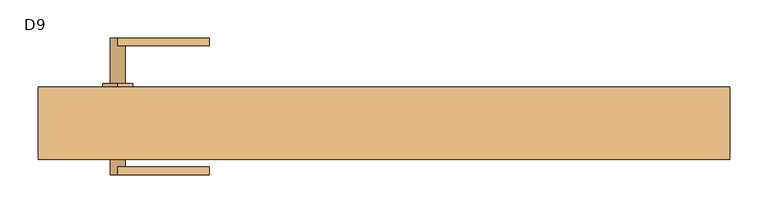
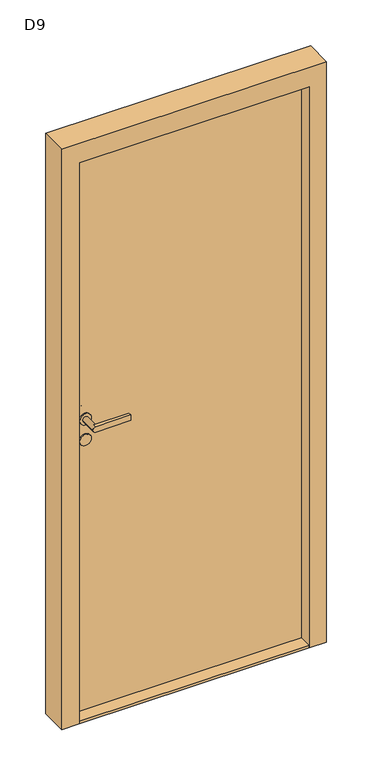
"""IFC4 building model written with IfcOpenShell, lengths in millimetres: door geometry, Enkeldörr : D9."""

from ifc_helpers import new_model, si_unit, point, frame, frame_2d, origin, origin_with_axes, place, context, project, spatial, polyline, circle_curve, trimmed, segment, composite_curve, outline, extrude, source, transform, mapped, element, save
from ifc_brep_helpers import plane_surface, cylinder_surface, advanced_brep


def d9_ccbe3deb(model_context):
    return source(origin(), model_context, "Body", "SolidModel", [
        extrude(outline(polyline([(395.0, -2.5), (-395.0, -2.5), (-395.0, 47.5), (395.0, 47.5), (395.0, -2.5)])), frame((0.0, 0.0, 10.0), z_axis=(0.0, 0.0, 1.0), x_axis=(1.0, 0.0, 0.0)), (0.0, 0.0, 1.0), 2030.0),
        advanced_brep(
        [(-350.0, -57.5, 1057.5), (-340.0, -57.5, 1067.5), (-350.0, -57.5, 1077.5), (-230.0, -57.5, 1077.5), (-230.0, -57.5, 1057.5), (-350.0, -67.5, 1077.5), (-360.0, -67.5, 1067.5), (-350.0, -67.5, 1057.5), (-230.0, -67.5, 1057.5), (-230.0, -67.5, 1077.5), (-340.0, -7.5, 1067.5), (-360.0, -7.5, 1067.5)],
        [
            (0, 1, circle_curve(frame((-350.0, -57.5, 1067.5), z_axis=(0.0, -1.0, 0.0), x_axis=(0.0, 0.0, 1.0)), 10.0)),
            (1, 2, circle_curve(frame((-350.0, -57.5, 1067.5), z_axis=(0.0, -1.0, 0.0), x_axis=(0.0, 0.0, 1.0)), 10.0)),
            (2, 3),
            (3, 4),
            (4, 0),
            (5, 6, circle_curve(frame((-350.0, -67.5, 1067.5), z_axis=(0.0, -1.0, 0.0), x_axis=(0.0, 0.0, 1.0)), 10.0)),
            (6, 7, circle_curve(frame((-350.0, -67.5, 1067.5), z_axis=(0.0, -1.0, 0.0), x_axis=(0.0, 0.0, 1.0)), 10.0)),
            (7, 8),
            (8, 9),
            (9, 5),
            (4, 8),
            (7, 0),
            (3, 9),
            (2, 5),
            (10, 11, circle_curve(frame((-350.0, -7.5, 1067.5), z_axis=(0.0, 1.0, 0.0), x_axis=(0.0, 0.0, 1.0)), 10.0)),
            (11, 10, circle_curve(frame((-350.0, -7.5, 1067.5), z_axis=(0.0, 1.0, 0.0), x_axis=(0.0, 0.0, 1.0)), 10.0)),
            (11, 6),
            (1, 10),
        ],
        [
            plane_surface(frame((-350.0, -57.5, 1057.5), z_axis=(0.0, 1.0, 0.0), x_axis=(1.0, 0.0, 0.0))),
            plane_surface(frame((-350.0, -67.5, 1057.5), z_axis=(0.0, -1.0, 0.0), x_axis=(-1.0, 0.0, 0.0))),
            plane_surface(frame((-350.0, -57.5, 1057.5), z_axis=(0.0, 0.0, -1.0), x_axis=(0.0, -1.0, 0.0))),
            plane_surface(frame((-230.0, -57.5, 1057.5), z_axis=(1.0, 0.0, 0.0), x_axis=(0.0, -1.0, 0.0))),
            plane_surface(frame((-230.0, -57.5, 1077.5), z_axis=(0.0, 0.0, 1.0), x_axis=(0.0, -1.0, 0.0))),
            plane_surface(frame((-350.0, -7.5, 1077.5), z_axis=(0.0, 1.0, 0.0), x_axis=(-1.0, 0.0, 0.0))),
            cylinder_surface(frame((-350.0, -67.5, 1067.5), z_axis=(0.0, 1.0, 0.0), x_axis=(0.0, 0.0, 1.0)), 10.0),
        ],
        [
            (0, [[1, 2, 3, 4, 5]]),
            (1, [[6, 7, 8, 9, 10]]),
            (2, [[11, -8, 12, -5]]),
            (3, [[13, -9, -11, -4]]),
            (4, [[14, -10, -13, -3]]),
            (5, [[15, 16]]),
            (6, [[17, -6, -14, -2, 18, -16]]),
            (6, [[-18, -1, -12, -7, -17, -15]]),
        ],
    ),
        advanced_brep(
        [(-350.0, 112.5, 1057.5), (-360.0, 112.5, 1067.5), (-350.0, 112.5, 1077.5), (-230.0, 112.5, 1077.5), (-230.0, 112.5, 1057.5), (-350.0, 102.5, 1077.5), (-340.0, 102.5, 1067.5), (-350.0, 102.5, 1057.5), (-230.0, 102.5, 1057.5), (-230.0, 102.5, 1077.5), (-360.0, 52.5, 1067.5), (-340.0, 52.5, 1067.5)],
        [
            (0, 1, circle_curve(frame((-350.0, 112.5, 1067.5), z_axis=(0.0, 1.0, 0.0), x_axis=(1.0, 0.0, 0.0)), 10.0)),
            (1, 2, circle_curve(frame((-350.0, 112.5, 1067.5), z_axis=(0.0, 1.0, 0.0), x_axis=(1.0, 0.0, 0.0)), 10.0)),
            (2, 3),
            (3, 4),
            (4, 0),
            (5, 6, circle_curve(frame((-350.0, 102.5, 1067.5), z_axis=(0.0, 1.0, 0.0), x_axis=(1.0, 0.0, 0.0)), 10.0)),
            (6, 7, circle_curve(frame((-350.0, 102.5, 1067.5), z_axis=(0.0, 1.0, 0.0), x_axis=(1.0, 0.0, 0.0)), 10.0)),
            (7, 8),
            (8, 9),
            (9, 5),
            (4, 8),
            (7, 0),
            (3, 9),
            (2, 5),
            (10, 11, circle_curve(frame((-350.0, 52.5, 1067.5), z_axis=(0.0, -1.0, 0.0), x_axis=(1.0, 0.0, 0.0)), 10.0)),
            (11, 10, circle_curve(frame((-350.0, 52.5, 1067.5), z_axis=(0.0, -1.0, 0.0), x_axis=(1.0, 0.0, 0.0)), 10.0)),
            (10, 1),
            (6, 11),
        ],
        [
            plane_surface(frame((-350.0, 112.5, 1057.5), z_axis=(0.0, 1.0, 0.0), x_axis=(1.0, 0.0, 0.0))),
            plane_surface(frame((-350.0, 102.5, 1057.5), z_axis=(0.0, -1.0, 0.0), x_axis=(-1.0, 0.0, 0.0))),
            plane_surface(frame((-350.0, 112.5, 1057.5), z_axis=(0.0, 0.0, -1.0), x_axis=(0.0, -1.0, 0.0))),
            plane_surface(frame((-230.0, 112.5, 1057.5), z_axis=(1.0, 0.0, 0.0), x_axis=(0.0, -1.0, 0.0))),
            plane_surface(frame((-230.0, 112.5, 1077.5), z_axis=(0.0, 0.0, 1.0), x_axis=(0.0, -1.0, 0.0))),
            plane_surface(frame((-340.0, 52.5, 1067.5), z_axis=(0.0, -1.0, 0.0), x_axis=(0.0, 0.0, -1.0))),
            cylinder_surface(frame((-350.0, 52.5, 1067.5), z_axis=(0.0, 1.0, 0.0), x_axis=(1.0, 0.0, 0.0)), 10.0),
        ],
        [
            (0, [[1, 2, 3, 4, 5]]),
            (1, [[6, 7, 8, 9, 10]]),
            (2, [[11, -8, 12, -5]]),
            (3, [[13, -9, -11, -4]]),
            (4, [[14, -10, -13, -3]]),
            (5, [[15, 16]]),
            (6, [[17, -1, -12, -7, 18, -15]]),
            (6, [[-18, -6, -14, -2, -17, -16]]),
        ],
    ),
        extrude(outline(composite_curve([segment(trimmed(circle_curve(frame_2d((1067.5, -350.0)), 20.0), [point((1047.5, -350.0))], [point((1087.5, -350.0))], False, "CARTESIAN"), True, "CONTINUOUS"), segment(trimmed(circle_curve(frame_2d((1067.5, -350.0)), 20.0), [point((1087.5, -350.0))], [point((1047.5, -350.0))], False, "CARTESIAN"), True, "CONTINUOUS")], self_intersect=False)), frame((0.0, -7.5, 0.0), z_axis=(0.0, 1.0, 0.0), x_axis=(0.0, 0.0, 1.0)), (0.0, 0.0, 1.0), 5.0),
        extrude(outline(composite_curve([segment(trimmed(circle_curve(frame_2d((992.5, -350.0)), 20.0), [point((972.5, -350.0))], [point((1012.5, -350.0))], False, "CARTESIAN"), True, "CONTINUOUS"), segment(trimmed(circle_curve(frame_2d((992.5, -350.0)), 20.0), [point((1012.5, -350.0))], [point((972.5, -350.0))], False, "CARTESIAN"), True, "CONTINUOUS")], self_intersect=False)), frame((0.0, -7.5, 0.0), z_axis=(0.0, 1.0, 0.0), x_axis=(0.0, 0.0, 1.0)), (0.0, 0.0, 1.0), 5.0),
        extrude(outline(composite_curve([segment(trimmed(circle_curve(frame_2d((1067.5, -350.0)), 20.0), [point((1047.5, -350.0))], [point((1087.5, -350.0))], False, "CARTESIAN"), True, "CONTINUOUS"), segment(trimmed(circle_curve(frame_2d((1067.5, -350.0)), 20.0), [point((1087.5, -350.0))], [point((1047.5, -350.0))], False, "CARTESIAN"), True, "CONTINUOUS")], self_intersect=False)), frame((0.0, 47.5, 0.0), z_axis=(0.0, 1.0, 0.0), x_axis=(0.0, 0.0, 1.0)), (0.0, 0.0, 1.0), 5.0),
        extrude(outline(composite_curve([segment(trimmed(circle_curve(frame_2d((992.5, -350.0)), 20.0), [point((972.5, -350.0))], [point((1012.5, -350.0))], False, "CARTESIAN"), True, "CONTINUOUS"), segment(trimmed(circle_curve(frame_2d((992.5, -350.0)), 20.0), [point((1012.5, -350.0))], [point((972.5, -350.0))], False, "CARTESIAN"), True, "CONTINUOUS")], self_intersect=False)), frame((0.0, 47.5, 0.0), z_axis=(0.0, 1.0, 0.0), x_axis=(0.0, 0.0, 1.0)), (0.0, 0.0, 1.0), 5.0),
        extrude(outline(polyline([(2110.0, 455.0), (2110.0, -455.0), (0.0, -455.0), (0.0, -395.0), (2040.0, -395.0), (2040.0, 395.0), (0.0, 395.0), (0.0, 455.0), (2110.0, 455.0)])), frame((0.0, -47.5, 0.0), z_axis=(0.0, 1.0, 0.0), x_axis=(0.0, 0.0, 1.0)), (0.0, 0.0, 1.0), 95.0),
        extrude(outline(polyline([(-395.0, -47.5), (-395.0, 47.5), (395.0, 47.5), (395.0, -47.5), (-395.0, -47.5)])), origin_with_axes(), (0.0, 0.0, 1.0), 10.0),
    ])


if __name__ == "__main__":
    model = new_model("IFC4")
    model_context = context("Model", 3, world=origin())
    ifc_project = project(units=[si_unit("LENGTHUNIT", "METRE", prefix="MILLI")], contexts=[model_context])
    site = spatial("IfcSite", under=ifc_project)
    building = spatial("IfcBuilding", under=site)
    placement = place(None, origin())
    d9_shape = d9_ccbe3deb(model_context)
    element("IfcDoor", 1, ObjectType="Enkeldörr : D9", at=placement, inside=building, context=model_context, shape_type="MappedRepresentation", body=[
        mapped(d9_shape, transform((0.0, 0.0, 0.0), x_axis=(1.0, 0.0, 0.0), y_axis=(0.0, 1.0, 0.0), z_axis=(0.0, 0.0, 1.0))),
    ])
    save(model, "model.ifc")
